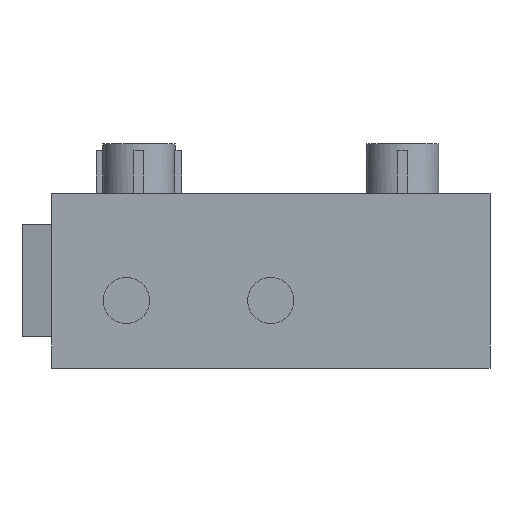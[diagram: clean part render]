
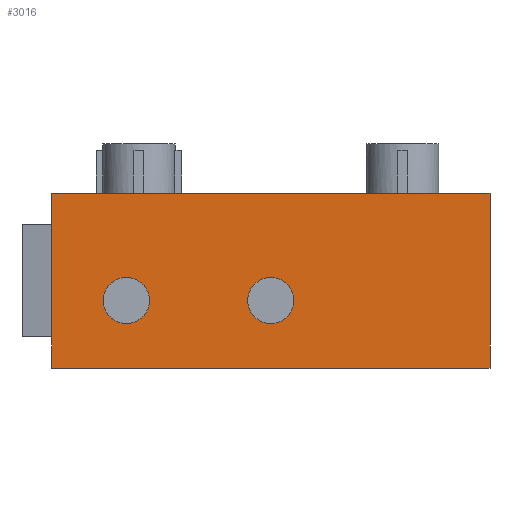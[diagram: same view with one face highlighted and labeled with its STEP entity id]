
A CAD part, front view. The second image highlights one B-rep face of the part: STEP entity #3016.
In plain terms, the highlighted planar face has unit normal (0, -1, 0).
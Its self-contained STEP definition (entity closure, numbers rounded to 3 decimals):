
#2 = VERTEX_POINT ( 'NONE', #89 ) ;
#37 = EDGE_CURVE ( 'NONE', #2, #655, #358, .T. ) ;
#43 = EDGE_CURVE ( 'NONE', #64, #2827, #405, .T. ) ;
#62 = EDGE_CURVE ( 'NONE', #226, #83, #547, .T. ) ;
#64 = VERTEX_POINT ( 'NONE', #556 ) ;
#83 = VERTEX_POINT ( 'NONE', #679 ) ;
#89 = CARTESIAN_POINT ( 'NONE',  ( 4., -9., -3.95 ) ) ;
#183 = CIRCLE ( 'NONE', #184, 0.7 ) ;
#184 = AXIS2_PLACEMENT_3D ( 'NONE', #185, #186, #187 ) ;
#185 = CARTESIAN_POINT ( 'NONE',  ( 4., -9., -3.25 ) ) ;
#186 = DIRECTION ( 'NONE',  ( 0., -1., 0. ) ) ;
#187 = DIRECTION ( 'NONE',  ( 0., 0., -1. ) ) ;
#226 = VERTEX_POINT ( 'NONE', #747 ) ;
#358 = CIRCLE ( 'NONE', #359, 0.7 ) ;
#359 = AXIS2_PLACEMENT_3D ( 'NONE', #360, #361, #362 ) ;
#360 = CARTESIAN_POINT ( 'NONE',  ( 4., -9., -3.25 ) ) ;
#361 = DIRECTION ( 'NONE',  ( 0., -1., 0. ) ) ;
#362 = DIRECTION ( 'NONE',  ( 0., 0., -1. ) ) ;
#405 = CIRCLE ( 'NONE', #406, 0.7 ) ;
#406 = AXIS2_PLACEMENT_3D ( 'NONE', #407, #408, #409 ) ;
#407 = CARTESIAN_POINT ( 'NONE',  ( -0.38, -9., -3.25 ) ) ;
#408 = DIRECTION ( 'NONE',  ( 0., -1., 0. ) ) ;
#409 = DIRECTION ( 'NONE',  ( 0., 0., -1. ) ) ;
#443 = CARTESIAN_POINT ( 'NONE',  ( 10.65, -9., -5.3 ) ) ;
#480 = ORIENTED_EDGE ( 'NONE', *, *, #62, .T. ) ;
#547 = LINE ( 'NONE', #548, #549 ) ;
#548 = CARTESIAN_POINT ( 'NONE',  ( -2.65, -9., 14.392 ) ) ;
#549 = VECTOR ( 'NONE', #550, 1000. ) ;
#550 = DIRECTION ( 'NONE',  ( 0., 0., -1. ) ) ;
#556 = CARTESIAN_POINT ( 'NONE',  ( -0.38, -9., -3.95 ) ) ;
#655 = VERTEX_POINT ( 'NONE', #1188 ) ;
#675 = LINE ( 'NONE', #676, #677 ) ;
#676 = CARTESIAN_POINT ( 'NONE',  ( -2.65, -9., 0. ) ) ;
#677 = VECTOR ( 'NONE', #678, 1000. ) ;
#678 = DIRECTION ( 'NONE',  ( -1., 0., 0. ) ) ;
#679 = CARTESIAN_POINT ( 'NONE',  ( -2.65, -9., -5.3 ) ) ;
#747 = CARTESIAN_POINT ( 'NONE',  ( -2.65, -9., 0. ) ) ;
#811 = LINE ( 'NONE', #812, #813 ) ;
#812 = CARTESIAN_POINT ( 'NONE',  ( 10.65, -9., 14.392 ) ) ;
#813 = VECTOR ( 'NONE', #814, 1000. ) ;
#814 = DIRECTION ( 'NONE',  ( 0., 0., -1. ) ) ;
#1037 = CARTESIAN_POINT ( 'NONE',  ( 10.65, -9., 0. ) ) ;
#1128 = LINE ( 'NONE', #1129, #1130 ) ;
#1129 = CARTESIAN_POINT ( 'NONE',  ( -2.65, -9., -5.3 ) ) ;
#1130 = VECTOR ( 'NONE', #1131, 1000. ) ;
#1131 = DIRECTION ( 'NONE',  ( -1., 0., 0. ) ) ;
#1188 = CARTESIAN_POINT ( 'NONE',  ( 4., -9., -2.55 ) ) ;
#1375 = CIRCLE ( 'NONE', #1376, 0.7 ) ;
#1376 = AXIS2_PLACEMENT_3D ( 'NONE', #1377, #1378, #1379 ) ;
#1377 = CARTESIAN_POINT ( 'NONE',  ( -0.38, -9., -3.25 ) ) ;
#1378 = DIRECTION ( 'NONE',  ( 0., -1., 0. ) ) ;
#1379 = DIRECTION ( 'NONE',  ( 0., 0., -1. ) ) ;
#1596 = FACE_BOUND ( 'NONE', #2745, .T. ) ;
#1597 = FACE_BOUND ( 'NONE', #3070, .T. ) ;
#1598 = FACE_OUTER_BOUND ( 'NONE', #2803, .T. ) ;
#1602 = PLANE ( 'NONE',  #1603 ) ;
#1603 = AXIS2_PLACEMENT_3D ( 'NONE', #1604, #1605, #1606 ) ;
#1604 = CARTESIAN_POINT ( 'NONE',  ( -2.65, -9., 14.392 ) ) ;
#1605 = DIRECTION ( 'NONE',  ( 0., -1., 0. ) ) ;
#1606 = DIRECTION ( 'NONE',  ( 0., 0., -1. ) ) ;
#1672 = ORIENTED_EDGE ( 'NONE', *, *, #43, .F. ) ;
#1862 = CARTESIAN_POINT ( 'NONE',  ( -0.38, -9., -2.55 ) ) ;
#2001 = ORIENTED_EDGE ( 'NONE', *, *, #3109, .F. ) ;
#2404 = ORIENTED_EDGE ( 'NONE', *, *, #2441, .F. ) ;
#2441 = EDGE_CURVE ( 'NONE', #2611, #83, #1128, .T. ) ;
#2538 = EDGE_CURVE ( 'NONE', #655, #2, #183, .T. ) ;
#2572 = ORIENTED_EDGE ( 'NONE', *, *, #37, .F. ) ;
#2611 = VERTEX_POINT ( 'NONE', #443 ) ;
#2645 = ORIENTED_EDGE ( 'NONE', *, *, #2659, .T. ) ;
#2659 = EDGE_CURVE ( 'NONE', #3125, #226, #675, .T. ) ;
#2745 = EDGE_LOOP ( 'NONE', ( #3049, #2572 ) ) ;
#2803 = EDGE_LOOP ( 'NONE', ( #2001, #2645, #480, #2404 ) ) ;
#2827 = VERTEX_POINT ( 'NONE', #1862 ) ;
#3016 = ADVANCED_FACE ( 'NONE', ( #1596, #1597, #1598 ), #1602, .T. ) ;
#3049 = ORIENTED_EDGE ( 'NONE', *, *, #2538, .F. ) ;
#3070 = EDGE_LOOP ( 'NONE', ( #3129, #1672 ) ) ;
#3109 = EDGE_CURVE ( 'NONE', #3125, #2611, #811, .T. ) ;
#3125 = VERTEX_POINT ( 'NONE', #1037 ) ;
#3129 = ORIENTED_EDGE ( 'NONE', *, *, #3151, .F. ) ;
#3151 = EDGE_CURVE ( 'NONE', #2827, #64, #1375, .T. ) ;
